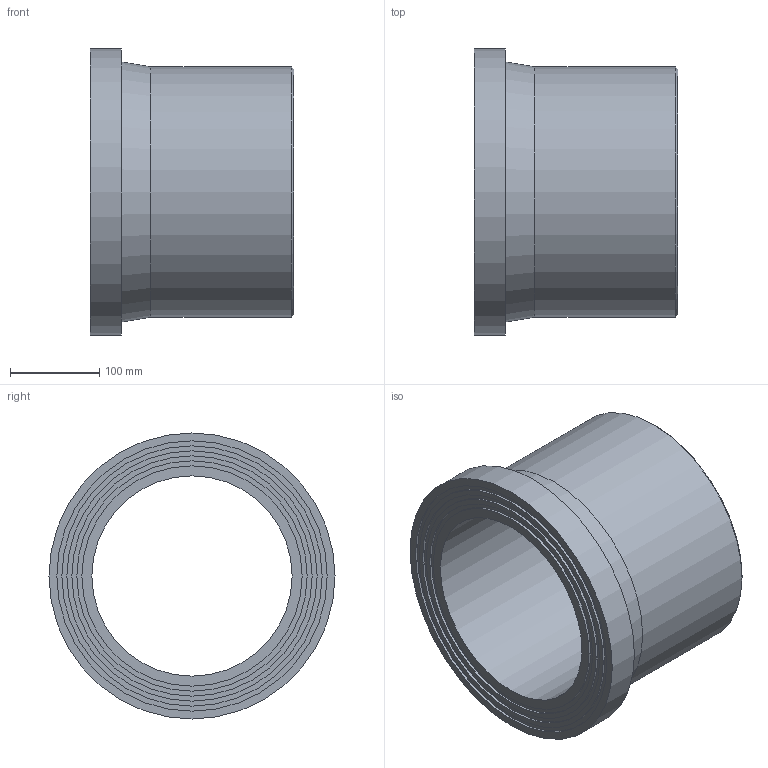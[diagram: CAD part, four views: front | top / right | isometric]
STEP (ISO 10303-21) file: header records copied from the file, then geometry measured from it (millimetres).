
FILE_DESCRIPTION(/* description */ ('Stub Flange 280'),/* implementation_level */ '2;1');
FILE_NAME(/* name */ 'C:\Dropbox\KIMPROJECTS-Inventor\99-16-3568-Processing\ElectroFusion Fittings\31.03.19\490207\490207280.ipt.stp',/* time_stamp */ '2019-03-31T18:57:53+03:00',/* author */ ('Кирилл'),/* organization */ (''),/* preprocessor_version */ 'ST-DEVELOPER v15.6',/* originating_system */ 'Autodesk Inventor 2015',/* authorisation */ '');
FILE_SCHEMA (('AUTOMOTIVE_DESIGN { 1 0 10303 214 3 1 1 }'));
Length unit declared in the file: millimetre
Products named in the file (1): 490207280
Bounding box: 228 x 320 x 320 mm (x, y, z)
Volume: 5750725.2 mm3; surface area: 456513.1 mm2
Topology: 1 solids, 1 shells, 20 faces, 31 edges, 20 vertices
Faces by surface type: cylinder 9, plane 9, cone 2
Full cylindrical faces by diameter (mm): 224 x1, 246.4 x1, 257.6 x1, 268.8 x1, 280 x2, 291.2 x1, 302.4 x1, 320 x1
Entity records: 432 total; most frequent: DIRECTION 82, CARTESIAN_POINT 61, AXIS2_PLACEMENT_3D 41, EDGE_LOOP 40, ORIENTED_EDGE 40, FACE_BOUND 20, FACE_OUTER_BOUND 20, CIRCLE 20
